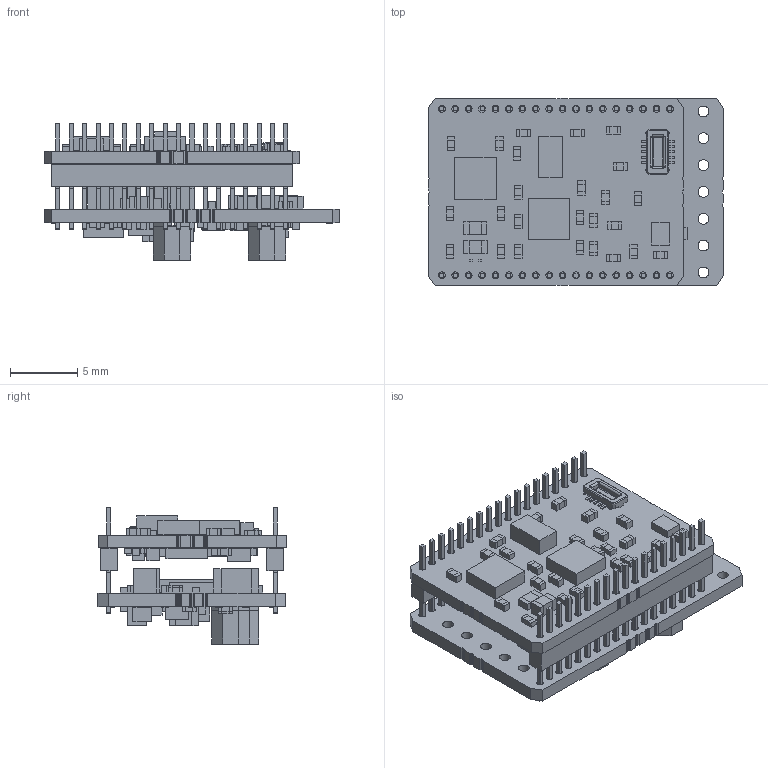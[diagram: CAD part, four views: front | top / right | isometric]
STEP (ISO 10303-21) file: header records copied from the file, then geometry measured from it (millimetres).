
FILE_DESCRIPTION(('Open CASCADE Model'),'2;1');
FILE_NAME('Open CASCADE Shape Model','2015-03-24T15:00:25',('Author'),( 'Open CASCADE'),'Open CASCADE STEP processor 6.5','Open CASCADE 6.5' ,'Unknown');
FILE_SCHEMA(('AUTOMOTIVE_DESIGN { 1 0 10303 214 1 1 1 1 }'));
Length unit declared in the file: millimetre
Products named in the file (249): PCB; Board; D3; 589021840; Extruded; T5; 588988304; L4; WE-TPC_2828; base; shielding; pad; T2; 589022736; R16; 589021072; 589021584; R15; L3; 589025680; 589025808; D2; 589021968; D1; 589022096; C19; 589024272; 589024528; C18; C15; 589024656; 589024784; C13; 589026064; 589026192; C12; L2; Pad8; 589022992; BG1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
Assembly tree (575 placements, depth 6):
  PCB
    Board
    D3
      589021840
        Extruded
    T5
      588988304
        Extruded
    L4
      WE-TPC_2828
        base
        shielding
        pad
        pad
    T2
      589022736
        Extruded
    R16
      589021072  x2
        Extruded
      589021584
        Extruded
    R15
      589021072  x2
        Extruded
      589021584
        Extruded
    L3
      589025680  x2
        Extruded
      589025808
        Extruded
    D2
      589021968
        Extruded
    D1
      589022096
        Extruded
    C19
      589024272  x2
        Extruded
      589024528
        Extruded
    C18
      589024272  x2
        Extruded
      589024528
        Extruded
    C15
      589024656  x2
        Extruded
      589024784
        Extruded
    C13
      589026064  x2
        Extruded
      589026192
        Extruded
    C12
      589024272  x2
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Bounding box: 22 x 14.02 x 10.15 mm (x, y, z)
Volume: 884.7 mm3; surface area: 3314 mm2
Topology: 392 solids, 392 shells, 3134 faces, 6841 edges, 4526 vertices
Faces by surface type: plane 2935, cylinder 175, extrusion 24
Full cylindrical faces by diameter (mm): 0.5 x71, 0.8 x12, 1.28 x2, 2 x2
Entity records: 78673 total; most frequent: CARTESIAN_POINT 19206, DIRECTION 10250, VECTOR 6125, LINE 6113, ORIENTED_EDGE 5168, PCURVE 5168, DEFINITIONAL_REPRESENTATION 5168, EDGE_CURVE 2584
